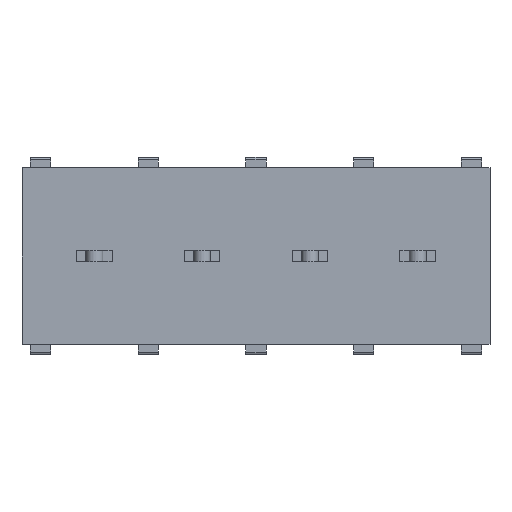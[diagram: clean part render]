
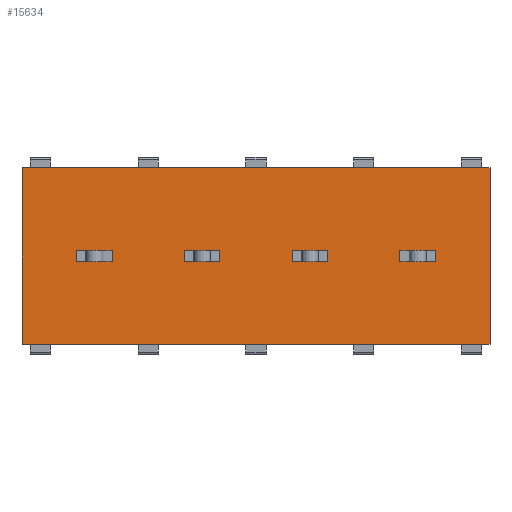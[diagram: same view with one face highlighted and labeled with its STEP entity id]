
A CAD part, front view. The second image highlights one B-rep face of the part: STEP entity #15634.
In plain terms, the highlighted planar face has unit normal (0, -1, 0).
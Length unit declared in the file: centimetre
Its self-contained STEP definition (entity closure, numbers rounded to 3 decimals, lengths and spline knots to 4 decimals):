
#965=VERTEX_POINT('',#19799);
#966=VERTEX_POINT('',#19800);
#973=VERTEX_POINT('',#19815);
#992=VERTEX_POINT('',#19871);
#1330=VERTEX_POINT('',#21382);
#1331=VERTEX_POINT('',#21384);
#1502=VERTEX_POINT('',#21948);
#1503=VERTEX_POINT('',#21949);
#1506=VERTEX_POINT('',#21957);
#1532=VERTEX_POINT('',#22027);
#1710=VERTEX_POINT('',#22625);
#1711=VERTEX_POINT('',#22626);
#1714=VERTEX_POINT('',#22634);
#1740=VERTEX_POINT('',#22704);
#1918=VERTEX_POINT('',#23302);
#1919=VERTEX_POINT('',#23303);
#1922=VERTEX_POINT('',#23311);
#1948=VERTEX_POINT('',#23381);
#2372=VERTEX_POINT('',#25155);
#2373=VERTEX_POINT('',#25157);
#2506=VECTOR('',#16554,1.);
#2512=VECTOR('',#16563,1.);
#2535=VECTOR('',#16607,1.);
#2545=VECTOR('',#16625,1.);
#2943=VECTOR('',#17159,1.);
#3118=VECTOR('',#17551,1.);
#3122=VECTOR('',#17556,1.);
#3150=VECTOR('',#17609,1.);
#3152=VECTOR('',#17612,1.);
#3342=VECTOR('',#18028,1.);
#3346=VECTOR('',#18033,1.);
#3374=VECTOR('',#18086,1.);
#3376=VECTOR('',#18089,1.);
#3566=VECTOR('',#18505,1.);
#3570=VECTOR('',#18510,1.);
#3598=VECTOR('',#18563,1.);
#3600=VECTOR('',#18566,1.);
#4116=VECTOR('',#19326,1.);
#4120=VECTOR('',#19332,1.);
#4121=VECTOR('',#19334,1.);
#4258=LINE('',#19798,#2506);
#4264=LINE('',#19814,#2512);
#4287=LINE('',#19870,#2535);
#4297=LINE('',#19892,#2545);
#4695=LINE('',#21383,#2943);
#4870=LINE('',#21947,#3118);
#4874=LINE('',#21956,#3122);
#4902=LINE('',#22026,#3150);
#4904=LINE('',#22030,#3152);
#5094=LINE('',#22624,#3342);
#5098=LINE('',#22633,#3346);
#5126=LINE('',#22703,#3374);
#5128=LINE('',#22707,#3376);
#5318=LINE('',#23301,#3566);
#5322=LINE('',#23310,#3570);
#5350=LINE('',#23380,#3598);
#5352=LINE('',#23384,#3600);
#5868=LINE('',#25156,#4116);
#5872=LINE('',#25163,#4120);
#5873=LINE('',#25165,#4121);
#6081=EDGE_CURVE('',#965,#966,#4258,.T.);
#6089=EDGE_CURVE('',#966,#973,#4264,.T.);
#6117=EDGE_CURVE('',#973,#992,#4287,.T.);
#6129=EDGE_CURVE('',#992,#965,#4297,.T.);
#6631=EDGE_CURVE('',#1331,#1330,#4695,.T.);
#6890=EDGE_CURVE('',#1502,#1503,#4870,.T.);
#6894=EDGE_CURVE('',#1506,#1502,#4874,.T.);
#6929=EDGE_CURVE('',#1532,#1506,#4902,.T.);
#6932=EDGE_CURVE('',#1503,#1532,#4904,.T.);
#7206=EDGE_CURVE('',#1710,#1711,#5094,.T.);
#7210=EDGE_CURVE('',#1714,#1710,#5098,.T.);
#7245=EDGE_CURVE('',#1740,#1714,#5126,.T.);
#7248=EDGE_CURVE('',#1711,#1740,#5128,.T.);
#7522=EDGE_CURVE('',#1918,#1919,#5318,.T.);
#7526=EDGE_CURVE('',#1922,#1918,#5322,.T.);
#7561=EDGE_CURVE('',#1948,#1922,#5350,.T.);
#7564=EDGE_CURVE('',#1919,#1948,#5352,.T.);
#8208=EDGE_CURVE('',#2373,#2372,#5868,.T.);
#8212=EDGE_CURVE('',#1330,#2373,#5872,.T.);
#8213=EDGE_CURVE('',#1331,#2372,#5873,.T.);
#12848=ORIENTED_EDGE('',*,*,#6117,.F.);
#12849=ORIENTED_EDGE('',*,*,#6089,.F.);
#12850=ORIENTED_EDGE('',*,*,#6081,.F.);
#12851=ORIENTED_EDGE('',*,*,#6129,.F.);
#12852=ORIENTED_EDGE('',*,*,#6894,.T.);
#12853=ORIENTED_EDGE('',*,*,#6890,.T.);
#12854=ORIENTED_EDGE('',*,*,#6932,.T.);
#12855=ORIENTED_EDGE('',*,*,#6929,.T.);
#12856=ORIENTED_EDGE('',*,*,#7210,.T.);
#12857=ORIENTED_EDGE('',*,*,#7206,.T.);
#12858=ORIENTED_EDGE('',*,*,#7248,.T.);
#12859=ORIENTED_EDGE('',*,*,#7245,.T.);
#12860=ORIENTED_EDGE('',*,*,#7526,.T.);
#12861=ORIENTED_EDGE('',*,*,#7522,.T.);
#12862=ORIENTED_EDGE('',*,*,#7564,.T.);
#12863=ORIENTED_EDGE('',*,*,#7561,.T.);
#12864=ORIENTED_EDGE('',*,*,#8208,.T.);
#12865=ORIENTED_EDGE('',*,*,#8213,.F.);
#12866=ORIENTED_EDGE('',*,*,#6631,.T.);
#12867=ORIENTED_EDGE('',*,*,#8212,.T.);
#13826=EDGE_LOOP('',(#12848,#12849,#12850,#12851));
#13827=EDGE_LOOP('',(#12852,#12853,#12854,#12855));
#13828=EDGE_LOOP('',(#12856,#12857,#12858,#12859));
#13829=EDGE_LOOP('',(#12860,#12861,#12862,#12863));
#13830=EDGE_LOOP('',(#12864,#12865,#12866,#12867));
#14764=FACE_BOUND('',#13826,.T.);
#14765=FACE_BOUND('',#13827,.T.);
#14766=FACE_BOUND('',#13828,.T.);
#14767=FACE_BOUND('',#13829,.T.);
#14768=FACE_BOUND('',#13830,.T.);
#15634=ADVANCED_FACE('',(#14764,#14765,#14766,#14767,#14768),#16250,.T.);
#16250=PLANE('',#26148);
#16554=DIRECTION('',(-1.,0.,0.));
#16563=DIRECTION('',(0.,0.,-1.));
#16607=DIRECTION('',(1.,0.,0.));
#16625=DIRECTION('',(0.,0.,1.));
#17159=DIRECTION('',(0.,0.,1.));
#17551=DIRECTION('',(0.,0.,1.));
#17556=DIRECTION('',(-1.,0.,0.));
#17609=DIRECTION('',(0.,0.,-1.));
#17612=DIRECTION('',(1.,0.,0.));
#18028=DIRECTION('',(0.,0.,1.));
#18033=DIRECTION('',(-1.,0.,0.));
#18086=DIRECTION('',(0.,0.,-1.));
#18089=DIRECTION('',(1.,0.,0.));
#18505=DIRECTION('',(0.,0.,1.));
#18510=DIRECTION('',(-1.,0.,0.));
#18563=DIRECTION('',(0.,0.,-1.));
#18566=DIRECTION('',(1.,0.,0.));
#19326=DIRECTION('',(0.,0.,-1.));
#19332=DIRECTION('',(-1.,0.,0.));
#19333=DIRECTION('',(0.,-1.,0.));
#19334=DIRECTION('',(-1.,0.,0.));
#19798=CARTESIAN_POINT('',(-0.465,0.,0.04));
#19799=CARTESIAN_POINT('',(-0.185,0.,0.04));
#19800=CARTESIAN_POINT('',(-0.435,0.,0.04));
#19814=CARTESIAN_POINT('',(-0.435,0.,0.));
#19815=CARTESIAN_POINT('',(-0.435,0.,-0.04));
#19870=CARTESIAN_POINT('',(-0.465,0.,-0.04));
#19871=CARTESIAN_POINT('',(-0.185,0.,-0.04));
#19892=CARTESIAN_POINT('',(-0.185,0.,0.));
#21382=CARTESIAN_POINT('',(2.488,0.,0.625));
#21383=CARTESIAN_POINT('',(2.488,0.,-0.625));
#21384=CARTESIAN_POINT('',(2.488,0.,-0.625));
#21947=CARTESIAN_POINT('',(1.851,0.,0.));
#21948=CARTESIAN_POINT('',(1.851,0.,-0.04));
#21949=CARTESIAN_POINT('',(1.851,0.,0.04));
#21956=CARTESIAN_POINT('',(0.988,0.,-0.04));
#21957=CARTESIAN_POINT('',(2.101,0.,-0.04));
#22026=CARTESIAN_POINT('',(2.101,0.,0.));
#22027=CARTESIAN_POINT('',(2.101,0.,0.04));
#22030=CARTESIAN_POINT('',(0.988,0.,0.04));
#22624=CARTESIAN_POINT('',(1.089,0.,0.));
#22625=CARTESIAN_POINT('',(1.089,0.,-0.04));
#22626=CARTESIAN_POINT('',(1.089,0.,0.04));
#22633=CARTESIAN_POINT('',(0.607,0.,-0.04));
#22634=CARTESIAN_POINT('',(1.339,0.,-0.04));
#22703=CARTESIAN_POINT('',(1.339,0.,0.));
#22704=CARTESIAN_POINT('',(1.339,0.,0.04));
#22707=CARTESIAN_POINT('',(0.607,0.,0.04));
#23301=CARTESIAN_POINT('',(0.327,0.,0.));
#23302=CARTESIAN_POINT('',(0.327,0.,-0.04));
#23303=CARTESIAN_POINT('',(0.327,0.,0.04));
#23310=CARTESIAN_POINT('',(0.226,0.,-0.04));
#23311=CARTESIAN_POINT('',(0.577,0.,-0.04));
#23380=CARTESIAN_POINT('',(0.577,0.,0.));
#23381=CARTESIAN_POINT('',(0.577,0.,0.04));
#23384=CARTESIAN_POINT('',(0.226,0.,0.04));
#25155=CARTESIAN_POINT('',(-0.822,0.,-0.625));
#25156=CARTESIAN_POINT('',(-0.822,0.,0.625));
#25157=CARTESIAN_POINT('',(-0.822,0.,0.625));
#25163=CARTESIAN_POINT('',(-0.762,0.,0.625));
#25164=CARTESIAN_POINT('',(-0.762,0.,0.));
#25165=CARTESIAN_POINT('',(-0.762,0.,-0.625));
#26148=AXIS2_PLACEMENT_3D('',#25164,#19333,$);
